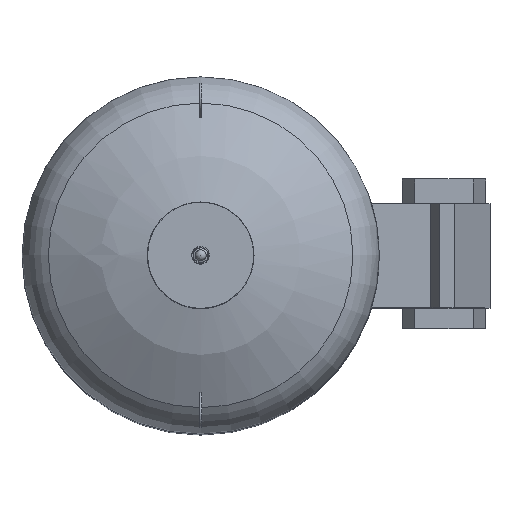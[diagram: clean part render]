
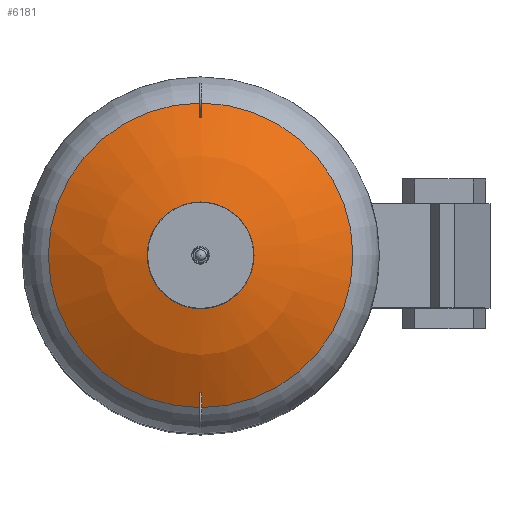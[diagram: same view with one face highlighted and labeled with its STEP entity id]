
A CAD part, top view. The second image highlights one B-rep face of the part: STEP entity #6181.
In plain terms, the highlighted spherical face has radius 633.9 mm.
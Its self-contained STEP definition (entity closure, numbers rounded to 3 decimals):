
#18=SPHERICAL_SURFACE('',#6833,633.9);
#792=FACE_OUTER_BOUND('',#1153,.T.);
#1153=EDGE_LOOP('',(#5328,#5329,#5330,#5331,#5332));
#2364=CIRCLE('',#6832,94.);
#2365=CIRCLE('',#6834,633.9);
#2366=CIRCLE('',#6835,335.793);
#2367=CIRCLE('',#6836,335.793);
#2976=VERTEX_POINT('',#10526);
#2977=VERTEX_POINT('',#10529);
#2978=VERTEX_POINT('',#10531);
#3812=EDGE_CURVE('',#2976,#2976,#2364,.T.);
#3813=EDGE_CURVE('',#2976,#2977,#2365,.T.);
#3814=EDGE_CURVE('',#2978,#2977,#2366,.T.);
#3815=EDGE_CURVE('',#2977,#2978,#2367,.T.);
#5328=ORIENTED_EDGE('',*,*,#3812,.T.);
#5329=ORIENTED_EDGE('',*,*,#3813,.T.);
#5330=ORIENTED_EDGE('',*,*,#3814,.F.);
#5331=ORIENTED_EDGE('',*,*,#3815,.F.);
#5332=ORIENTED_EDGE('',*,*,#3813,.F.);
#6181=ADVANCED_FACE('',(#792),#18,.T.);
#6832=AXIS2_PLACEMENT_3D('',#10527,#8482,#8483);
#6833=AXIS2_PLACEMENT_3D('',#10528,#8484,#8485);
#6834=AXIS2_PLACEMENT_3D('',#10530,#8486,#8487);
#6835=AXIS2_PLACEMENT_3D('',#10532,#8488,#8489);
#6836=AXIS2_PLACEMENT_3D('',#10533,#8490,#8491);
#8482=DIRECTION('center_axis',(0.,0.,-1.));
#8483=DIRECTION('ref_axis',(1.,0.,0.));
#8484=DIRECTION('center_axis',(0.,0.,1.));
#8485=DIRECTION('ref_axis',(1.,0.,0.));
#8486=DIRECTION('center_axis',(0.,-1.,0.));
#8487=DIRECTION('ref_axis',(-1.,0.,0.));
#8488=DIRECTION('center_axis',(0.,0.,-1.));
#8489=DIRECTION('ref_axis',(1.,0.,0.));
#8490=DIRECTION('center_axis',(0.,0.,-1.));
#8491=DIRECTION('ref_axis',(1.,0.,0.));
#10526=CARTESIAN_POINT('',(-94.,0.,1967.492));
#10527=CARTESIAN_POINT('Origin',(0.,0.,1967.492));
#10528=CARTESIAN_POINT('Origin',(0.,0.,1340.6));
#10529=CARTESIAN_POINT('',(-335.793,0.,1878.255));
#10530=CARTESIAN_POINT('Origin',(0.,0.,1340.6));
#10531=CARTESIAN_POINT('',(335.793,0.,1878.255));
#10532=CARTESIAN_POINT('Origin',(0.,0.,1878.255));
#10533=CARTESIAN_POINT('Origin',(0.,0.,1878.255));
